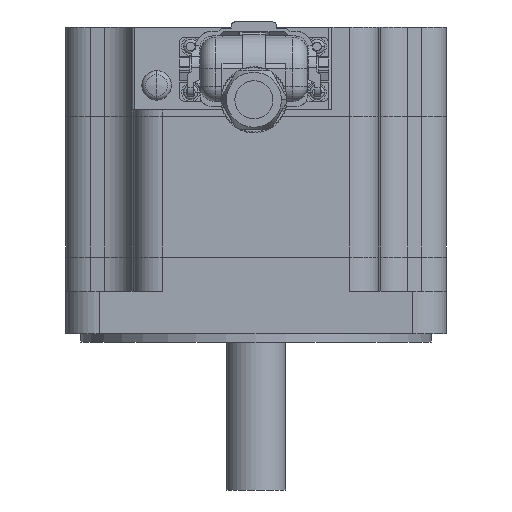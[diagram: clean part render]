
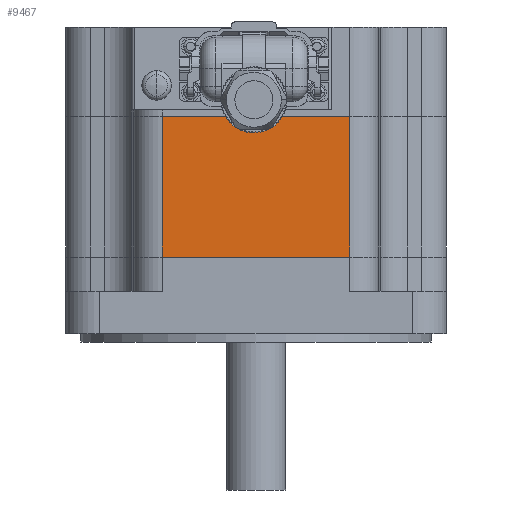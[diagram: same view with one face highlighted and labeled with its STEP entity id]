
A CAD part, front view. The second image highlights one B-rep face of the part: STEP entity #9467.
In plain terms, the highlighted planar face has unit normal (0, -1, 0).
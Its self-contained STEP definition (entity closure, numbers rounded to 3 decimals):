
#1165 = VECTOR ( 'NONE', #18996, 1000. ) ;
#1508 = CARTESIAN_POINT ( 'NONE',  ( -45., -45., 10. ) ) ;
#1654 = ORIENTED_EDGE ( 'NONE', *, *, #9765, .T. ) ;
#2084 = VECTOR ( 'NONE', #16042, 1000. ) ;
#2965 = CARTESIAN_POINT ( 'NONE',  ( -45., -45., 51.4 ) ) ;
#4229 = CARTESIAN_POINT ( 'NONE',  ( -22.14, -45., 51.4 ) ) ;
#4393 = LINE ( 'NONE', #7503, #12380 ) ;
#5385 = ORIENTED_EDGE ( 'NONE', *, *, #8645, .F. ) ;
#7407 = DIRECTION ( 'NONE',  ( -1., 0., 0. ) ) ;
#7503 = CARTESIAN_POINT ( 'NONE',  ( -45., -45., 18.1 ) ) ;
#8645 = EDGE_CURVE ( 'NONE', #16773, #14600, #18567, .T. ) ;
#8916 = DIRECTION ( 'NONE',  ( 0., 1., 0. ) ) ;
#8917 = AXIS2_PLACEMENT_3D ( 'NONE', #1508, #8916, #16148 ) ;
#9062 = EDGE_LOOP ( 'NONE', ( #16962, #5385, #15516, #1654 ) ) ;
#9467 = ADVANCED_FACE ( 'NONE', ( #15966 ), #14499, .F. ) ;
#9703 = CARTESIAN_POINT ( 'NONE',  ( 22.14, -45., 72.5 ) ) ;
#9765 = EDGE_CURVE ( 'NONE', #11852, #13634, #13054, .T. ) ;
#10093 = LINE ( 'NONE', #2965, #2084 ) ;
#10239 = VECTOR ( 'NONE', #17009, 1000. ) ;
#10399 = CARTESIAN_POINT ( 'NONE',  ( -22.14, -45., 72.5 ) ) ;
#11852 = VERTEX_POINT ( 'NONE', #4229 ) ;
#12351 = CARTESIAN_POINT ( 'NONE',  ( 22.14, -45., 51.4 ) ) ;
#12380 = VECTOR ( 'NONE', #7407, 1000. ) ;
#13054 = LINE ( 'NONE', #10399, #1165 ) ;
#13634 = VERTEX_POINT ( 'NONE', #15905 ) ;
#14499 = PLANE ( 'NONE',  #8917 ) ;
#14600 = VERTEX_POINT ( 'NONE', #16227 ) ;
#15516 = ORIENTED_EDGE ( 'NONE', *, *, #15716, .T. ) ;
#15716 = EDGE_CURVE ( 'NONE', #16773, #11852, #10093, .T. ) ;
#15905 = CARTESIAN_POINT ( 'NONE',  ( -22.14, -45., 18.1 ) ) ;
#15966 = FACE_OUTER_BOUND ( 'NONE', #9062, .T. ) ;
#16042 = DIRECTION ( 'NONE',  ( -1., 0., 0. ) ) ;
#16148 = DIRECTION ( 'NONE',  ( 0., 0., 1. ) ) ;
#16227 = CARTESIAN_POINT ( 'NONE',  ( 22.14, -45., 18.1 ) ) ;
#16773 = VERTEX_POINT ( 'NONE', #12351 ) ;
#16962 = ORIENTED_EDGE ( 'NONE', *, *, #17861, .F. ) ;
#17009 = DIRECTION ( 'NONE',  ( 0., 0., -1. ) ) ;
#17861 = EDGE_CURVE ( 'NONE', #14600, #13634, #4393, .T. ) ;
#18567 = LINE ( 'NONE', #9703, #10239 ) ;
#18996 = DIRECTION ( 'NONE',  ( 0., 0., -1. ) ) ;
